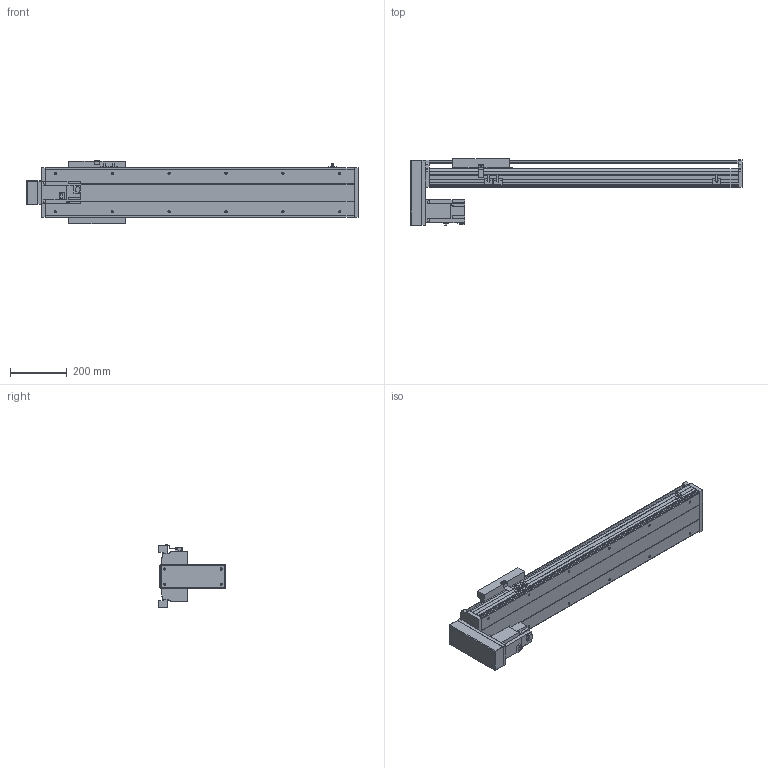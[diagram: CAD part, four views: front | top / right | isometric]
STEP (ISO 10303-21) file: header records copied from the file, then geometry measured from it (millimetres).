
FILE_DESCRIPTION( ( 'STEP AP214' ), '1' );
FILE_NAME( 'x:/temp/worker_27/temp/exporttempdir_6708_425_OsP0B/format_0/PSS200-L10-S750-BM-T75-C1-N(0).stp', '2022-06-06T02:44:55', ( 'License CC BY-ND 4.0' ), ( 'CADENAS' ), ' ', 'PARTsolutions', ' ' );
FILE_SCHEMA( ( 'AUTOMOTIVE_DESIGN { 1 0 10303 214 1 1 1 1 }' ) );
Length unit declared in the file: millimetre
Products named in the file (8): PSS200-L10-S750-BM-T75-C1-N(0); _PSS200-S750-BM-C1-N_body; _PSS200-N_Q; _PSS200-BM-C1-N_sl; _PSS200-N_sensor; _PSS200BM-N_h; _T75-p1; _PSS200-S750-BM-N_S
Assembly tree (9 placements, depth 2):
  PSS200-L10-S750-BM-T75-C1-N(0)
    _PSS200-S750-BM-C1-N_body
    _PSS200-N_Q
    _PSS200-BM-C1-N_sl
    _PSS200-N_sensor  x3
    _PSS200BM-N_h
    _T75-p1
    _PSS200-S750-BM-N_S
Bounding box: 1166.85 x 234.45 x 223.86 mm (x, y, z)
Volume: 8138584 mm3; surface area: 1879223.6 mm2
Topology: 9 solids, 9 shells, 598 faces, 1601 edges, 1062 vertices
Faces by surface type: plane 452, cylinder 122, cone 20, sphere 4
Full cylindrical faces by diameter (mm): 4 x2, 4.5 x4, 6 x7, 6.647 x16, 7.4 x4, 8 x8, 10 x6, 25 x1, 40 x1, 67 x1
Entity records: 20949 total; most frequent: CARTESIAN_POINT 2901, DIRECTION 2747, ORIENTED_EDGE 2722, EDGE_CURVE 1361, LINE 1071, VECTOR 1071, VERTEX_POINT 944, AXIS2_PLACEMENT_3D 838
